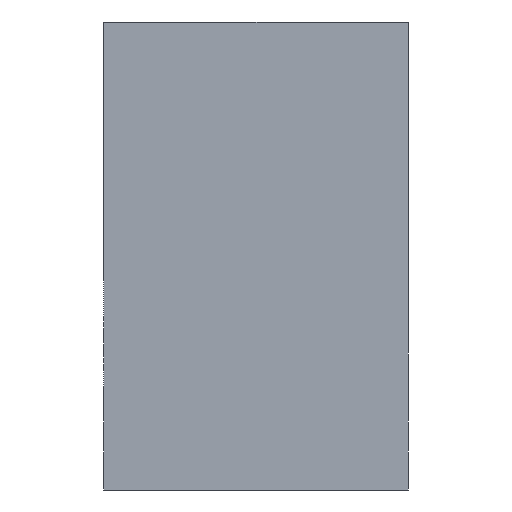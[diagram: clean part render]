
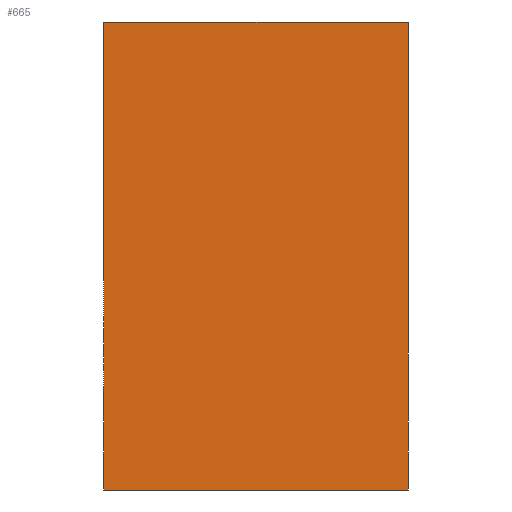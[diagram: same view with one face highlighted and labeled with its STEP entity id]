
A CAD part, left-side view. The second image highlights one B-rep face of the part: STEP entity #665.
In plain terms, the highlighted planar face has unit normal (-1, 0, 0).
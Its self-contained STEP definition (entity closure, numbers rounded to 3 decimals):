
#5 = VECTOR ( 'NONE', #1550, 1000. ) ;
#15 = FACE_OUTER_BOUND ( 'NONE', #1955, .T. ) ;
#102 = VECTOR ( 'NONE', #805, 1000. ) ;
#251 = ORIENTED_EDGE ( 'NONE', *, *, #1819, .T. ) ;
#281 = ORIENTED_EDGE ( 'NONE', *, *, #2001, .T. ) ;
#314 = CARTESIAN_POINT ( 'NONE',  ( 0., 0., 0. ) ) ;
#326 = DIRECTION ( 'NONE',  ( 0., 0., 1. ) ) ;
#343 = CARTESIAN_POINT ( 'NONE',  ( 0., 19.5, 0. ) ) ;
#358 = VECTOR ( 'NONE', #326, 1000. ) ;
#360 = ORIENTED_EDGE ( 'NONE', *, *, #1706, .F. ) ;
#406 = DIRECTION ( 'NONE',  ( 1., 0., 0. ) ) ;
#665 = ADVANCED_FACE ( 'NONE', ( #15 ), #1444, .F. ) ;
#698 = CARTESIAN_POINT ( 'NONE',  ( 0., 19.5, 0. ) ) ;
#795 = VERTEX_POINT ( 'NONE', #314 ) ;
#805 = DIRECTION ( 'NONE',  ( 0., -1., 0. ) ) ;
#971 = CARTESIAN_POINT ( 'NONE',  ( 0., 19.5, 0. ) ) ;
#1043 = CARTESIAN_POINT ( 'NONE',  ( 0., 0., 0. ) ) ;
#1058 = VERTEX_POINT ( 'NONE', #1073 ) ;
#1073 = CARTESIAN_POINT ( 'NONE',  ( 0., 19.5, -30. ) ) ;
#1078 = AXIS2_PLACEMENT_3D ( 'NONE', #343, #406, #1966 ) ;
#1179 = CARTESIAN_POINT ( 'NONE',  ( 0., 19.5, 0. ) ) ;
#1216 = VERTEX_POINT ( 'NONE', #1753 ) ;
#1431 = DIRECTION ( 'NONE',  ( 0., -1., 0. ) ) ;
#1444 = PLANE ( 'NONE',  #1078 ) ;
#1480 = VERTEX_POINT ( 'NONE', #1179 ) ;
#1536 = ORIENTED_EDGE ( 'NONE', *, *, #1609, .F. ) ;
#1550 = DIRECTION ( 'NONE',  ( 0., 0., 1. ) ) ;
#1580 = LINE ( 'NONE', #1946, #102 ) ;
#1609 = EDGE_CURVE ( 'NONE', #1480, #795, #1772, .T. ) ;
#1669 = LINE ( 'NONE', #1043, #358 ) ;
#1706 = EDGE_CURVE ( 'NONE', #1058, #1480, #1762, .T. ) ;
#1753 = CARTESIAN_POINT ( 'NONE',  ( 0., 0., -30. ) ) ;
#1762 = LINE ( 'NONE', #971, #5 ) ;
#1767 = VECTOR ( 'NONE', #1431, 1000. ) ;
#1772 = LINE ( 'NONE', #698, #1767 ) ;
#1819 = EDGE_CURVE ( 'NONE', #1216, #795, #1669, .T. ) ;
#1946 = CARTESIAN_POINT ( 'NONE',  ( 0., 19.5, -30. ) ) ;
#1955 = EDGE_LOOP ( 'NONE', ( #251, #1536, #360, #281 ) ) ;
#1966 = DIRECTION ( 'NONE',  ( 0., 0., -1. ) ) ;
#2001 = EDGE_CURVE ( 'NONE', #1058, #1216, #1580, .T. ) ;
